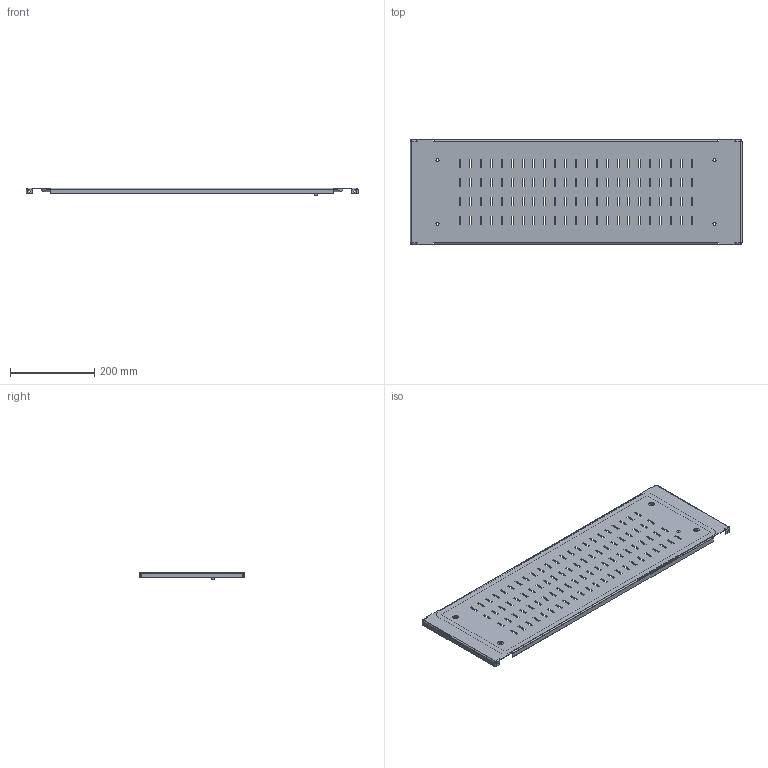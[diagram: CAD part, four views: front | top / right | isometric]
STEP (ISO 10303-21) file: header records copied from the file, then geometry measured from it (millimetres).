
FILE_DESCRIPTION(('STEP AP203'), '1');
FILE_NAME('Ïàíåëü ëèöåâàÿ ïåðôîðèðîâàííàÿ 250õ800 ìì OptiBox M 419518 ÊÝÀÇ', '', ('UNSPECIFIED'), ('UNSPECIFIED'), 'C3D Converter', 'C3D Toolkit', '');
FILE_SCHEMA(('CONFIG_CONTROL_DESIGN'));
Length unit declared in the file: millimetre
Bounding box: 786.4 x 247 x 18.9 mm (x, y, z)
Volume: 422905.6 mm3; surface area: 488454.6 mm2
Topology: 3 solids, 3 shells, 536 faces, 1489 edges, 966 vertices
Faces by surface type: plane 477, cylinder 51, bspline 8
Full cylindrical faces by diameter (mm): 0.75 x1, 1 x1, 5 x2, 7.3 x4, 8 x1, 9.3 x1, 13 x1, 13.5 x4
Entity records: 18252 total; most frequent: CARTESIAN_POINT 4213, ORIENTED_EDGE 2948, DIRECTION 2566, EDGE_CURVE 1474, LINE 1368, VECTOR 1368, VERTEX_POINT 966, EDGE_LOOP 756
